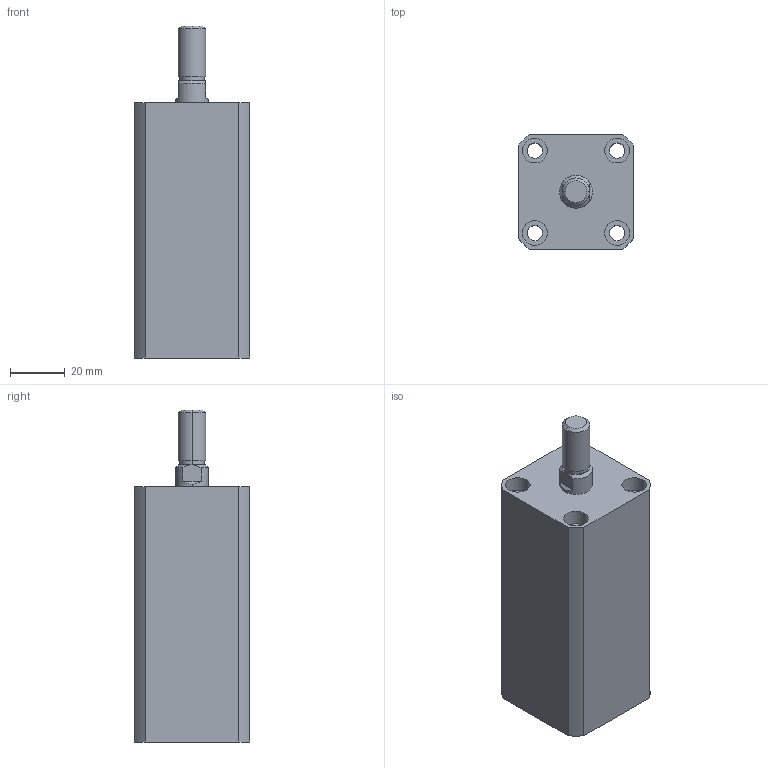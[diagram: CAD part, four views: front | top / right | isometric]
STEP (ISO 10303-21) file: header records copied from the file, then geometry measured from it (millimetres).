
FILE_DESCRIPTION (( 'STEP AP203' ), '1' );
FILE_NAME ('HTB-SDMB20-50W.STEP', '2019-10-08T11:57:38', ( '微软用户' ), ( '微软中国' ), 'SwSTEP 2.0', 'SolidWorks 2012', '' );
FILE_SCHEMA (( 'CONFIG_CONTROL_DESIGN' ));
Length unit declared in the file: millimetre
Products named in the file (3): HTB-SDMB20-50W; HTB-SDMB20-50掛极; HTB-SDMB20-50W活塞杆
Assembly tree (2 placements, depth 2):
  HTB-SDMB20-50W
    HTB-SDMB20-50掛极
    HTB-SDMB20-50W活塞杆
Bounding box: 42 x 42 x 121 mm (x, y, z)
Volume: 142423 mm3; surface area: 35561.7 mm2
Topology: 2 solids, 2 shells, 140 faces, 332 edges, 218 vertices
Faces by surface type: plane 66, cylinder 48, bspline 16, torus 6, cone 4
Entity records: 5129 total; most frequent: CARTESIAN_POINT 1587, ORIENTED_EDGE 664, DIRECTION 662, EDGE_CURVE 332, AXIS2_PLACEMENT_3D 241, VERTEX_POINT 218, LINE 180, VECTOR 180
